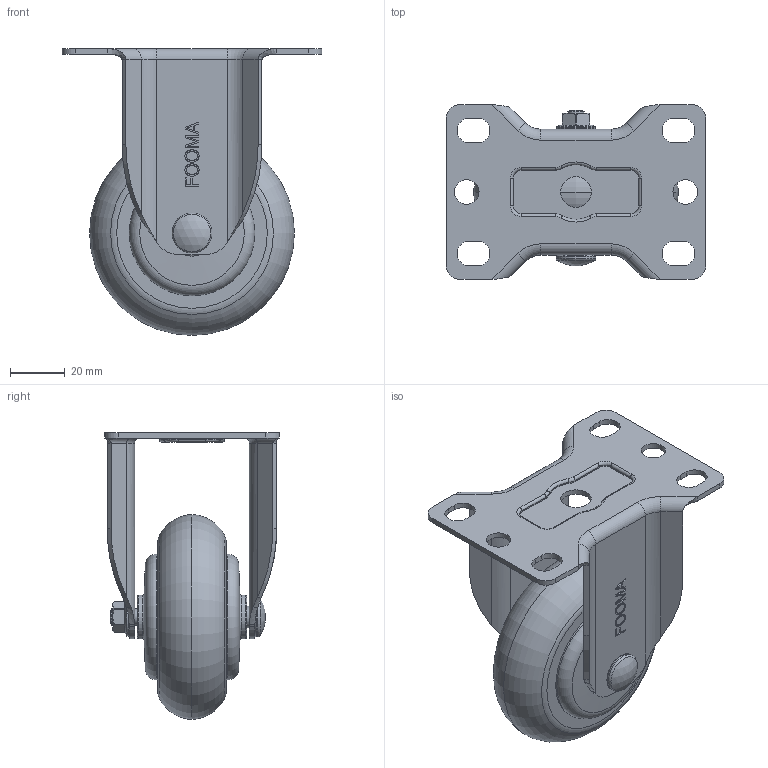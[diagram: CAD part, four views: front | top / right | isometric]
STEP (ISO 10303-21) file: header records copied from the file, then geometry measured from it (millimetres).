
FILE_DESCRIPTION(/* description */ (''),/* implementation_level */ '2;1');
FILE_NAME(/* name */ 'E:\홈피용도면\\X2\C2E0ADDCD648D398C774C9C0C6A9B3C4BA74\X0\\무소음캐스터\20160225-\X2\BB34C18CC74CCE90C2A4D130\X0\\GL-75-ARF.stp',/* time_stamp */ '2016-02-25T20:28:42+09:00',/* author */ ('장용하'),/* organization */ (''),/* preprocessor_version */ 'ST-DEVELOPER v15.6',/* originating_system */ 'Autodesk Inventor 2015',/* authorisation */ '');
FILE_SCHEMA (('AUTOMOTIVE_DESIGN { 1 0 10303 214 3 1 1 }'));
Length unit declared in the file: millimetre
Products named in the file (1): GL-75-ARF
Bounding box: 95 x 64 x 105 mm (x, y, z)
Volume: 137170.9 mm3; surface area: 39013.1 mm2
Topology: 1 solids, 1 shells, 901 faces, 2521 edges, 1647 vertices
Faces by surface type: plane 744, cylinder 89, torus 42, bspline 20, cone 5, sphere 1
Full cylindrical faces by diameter (mm): 6 x2, 6.2 x1, 8 x1, 9 x2, 11.2 x1, 14 x1, 14.6 x1, 16 x2, 46 x2
Entity records: 28797 total; most frequent: CARTESIAN_POINT 5644, ORIENTED_EDGE 4972, DIRECTION 4452, EDGE_CURVE 2486, LINE 2216, VECTOR 2216, VERTEX_POINT 1644, AXIS2_PLACEMENT_3D 1118
